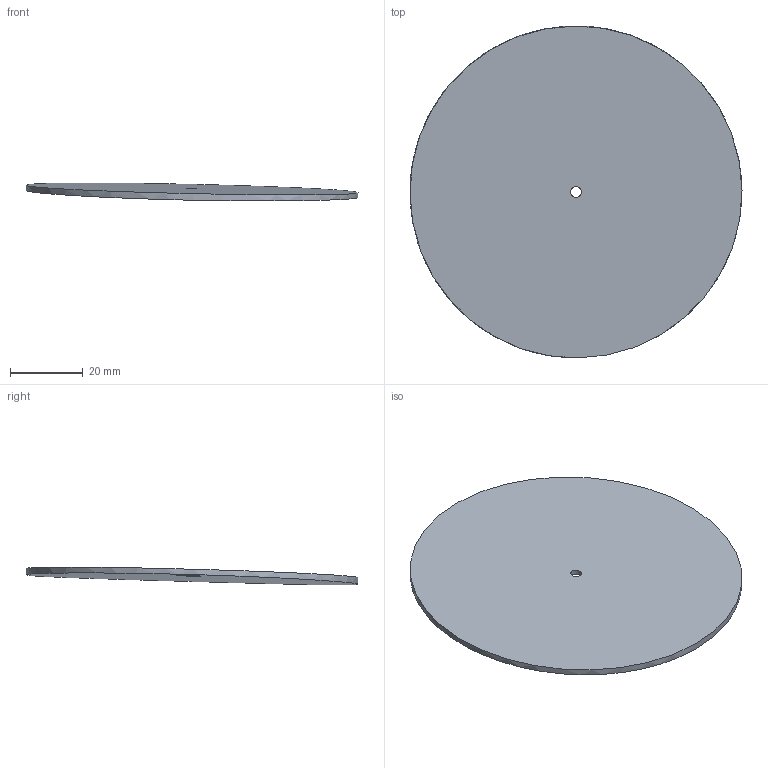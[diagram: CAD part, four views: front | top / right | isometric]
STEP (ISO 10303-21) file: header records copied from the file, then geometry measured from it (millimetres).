
FILE_DESCRIPTION(/* description */ ('','CAx-IF Rec.Pracs.---Representation and Presentation of Product Manufacturing Information (PMI)---4.0---2014-10-13'),/* implementation_level */ '2;1');
FILE_NAME(/* name */ '20elco37mmdeck.step',/* time_stamp */ '2025-03-07T14:08:05+11:00',/* author */ (''),/* organization */ (''),/* preprocessor_version */ 'ST-DEVELOPER v20',/* originating_system */ 'Autodesk Translation Framework v13.20.0.188',/* authorisation */ '');
FILE_SCHEMA (('AP242_MANAGED_MODEL_BASED_3D_ENGINEERING_MIM_LF { 1 0 10303 442 1 1 4 }'));
Length unit declared in the file: millimetre
Products named in the file (1): EngineRoomHatch593
Bounding box: 91.41 x 91.4 x 4.95 mm (x, y, z)
Volume: 9533.8 mm3; surface area: 13603.6 mm2
Topology: 1 solids, 1 shells, 12 faces, 29 edges, 20 vertices
Faces by surface type: plane 9, cylinder 2, bspline 1
Full cylindrical faces by diameter (mm): 3 x1, 91.44 x1
Entity records: 513 total; most frequent: CARTESIAN_POINT 184, ORIENTED_EDGE 58, DIRECTION 44, EDGE_CURVE 29, VERTEX_POINT 20, LINE 16, VECTOR 16, EDGE_LOOP 15
